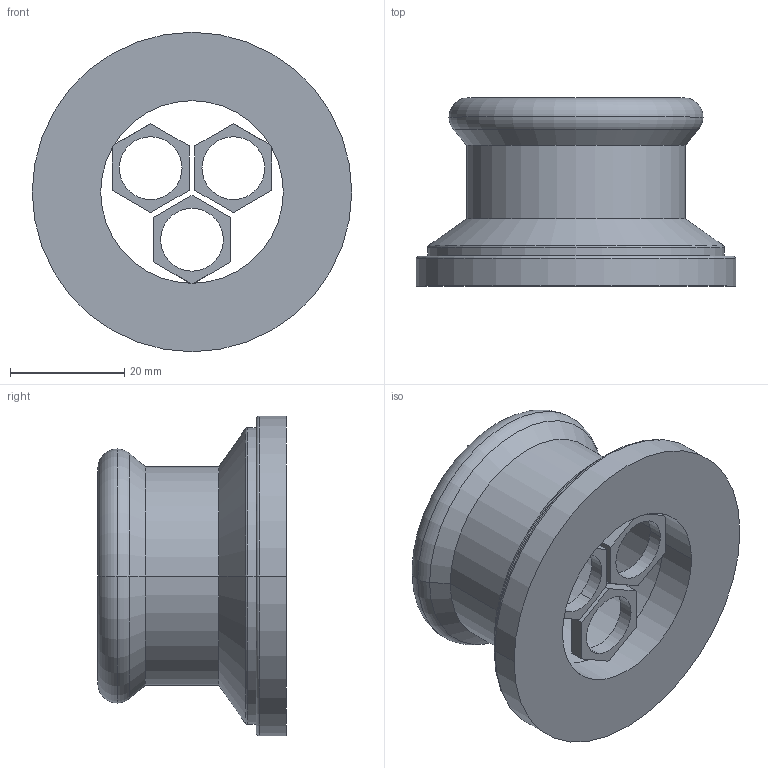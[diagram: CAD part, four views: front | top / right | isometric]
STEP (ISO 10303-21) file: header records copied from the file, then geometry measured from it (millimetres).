
FILE_DESCRIPTION(('OneSpaceDesigner STEP Export'),'2;1');
FILE_NAME('R2736 35x2.stp','2010-06-10T14:07:47',(''),(''),'OneSpace Designer STEP processor for AP214 (Solid Model)','OneSpace Modeling 15.00A 14-Mar-2007 (C) CoCreate Software GmbH','');
FILE_SCHEMA(('AUTOMOTIVE_DESIGN { 1 0 10303 214 1 1 1 1 }'));
Length unit declared in the file: millimetre
Products named in the file (2): R2736_35x2
Assembly tree (1 placements, depth 2):
  R2736_35x2
    R2736_35x2
Bounding box: 56 x 33 x 56 mm (x, y, z)
Volume: 20447.7 mm3; surface area: 12383.2 mm2
Topology: 1 solids, 1 shells, 65 faces, 157 edges, 100 vertices
Faces by surface type: plane 32, cylinder 21, torus 8, cone 4
Entity records: 1706 total; most frequent: ORIENTED_EDGE 314, CARTESIAN_POINT 272, DIRECTION 253, EDGE_CURVE 157, VERTEX_POINT 100, VECTOR 91, LINE 91, AXIS2_PLACEMENT_3D 81
